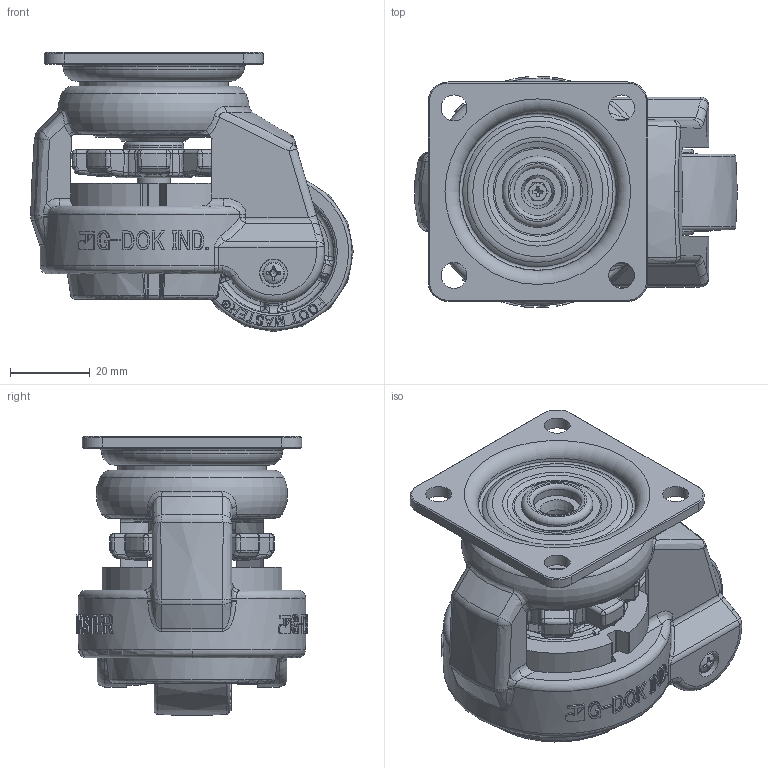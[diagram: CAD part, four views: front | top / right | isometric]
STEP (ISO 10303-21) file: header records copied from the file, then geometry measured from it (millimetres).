
FILE_DESCRIPTION(/* description */ (''),/* implementation_level */ '2;1');
FILE_NAME(/* name */ 'Z:\1.기술연구소\★★도면정리_20220308\GD-series_오창근편집본\도면높이보정용\1. GD, GDN-40\3D\관리본\STEP\GD-40-F-NYN_H70_W40.stp',/* time_stamp */ '2023-07-27T19:47:10+09:00',/* author */ ('admin'),/* organization */ (''),/* preprocessor_version */ 'ST-DEVELOPER v18.1',/* originating_system */ 'Autodesk Inventor 2021',/* authorisation */ '');
FILE_SCHEMA (('AUTOMOTIVE_DESIGN { 1 0 10303 214 3 1 1 }'));
Products named in the file (1): 1. GD-40-F-NYN_H70_W40_Shrinkwrap_1
Bounding box: 80.86 x 58 x 69.96 mm (x, y, z)
Volume: 122492.8 mm3; surface area: 46635.8 mm2
Topology: 3 solids, 4 shells, 2686 faces, 6660 edges, 4001 vertices
Faces by surface type: bspline 1053, plane 819, cylinder 293, torus 211, cone 166, sphere 144
Full cylindrical faces by diameter (mm): 2.9 x2, 5.5 x2, 6.5 x4, 7 x2, 7.1 x1, 8 x1, 8.4 x1, 10.945 x1, 11.542 x1, 12 x1, 14.9 x1, 15 x1, 17.9 x1, 18 x1, 30 x1, 37.383 x1
Entity records: 102216 total; most frequent: CARTESIAN_POINT 42669, ORIENTED_EDGE 13126, DIRECTION 9599, EDGE_CURVE 6563, VERTEX_POINT 4001, AXIS2_PLACEMENT_3D 3651, EDGE_LOOP 2821, FACE_OUTER_BOUND 2686
